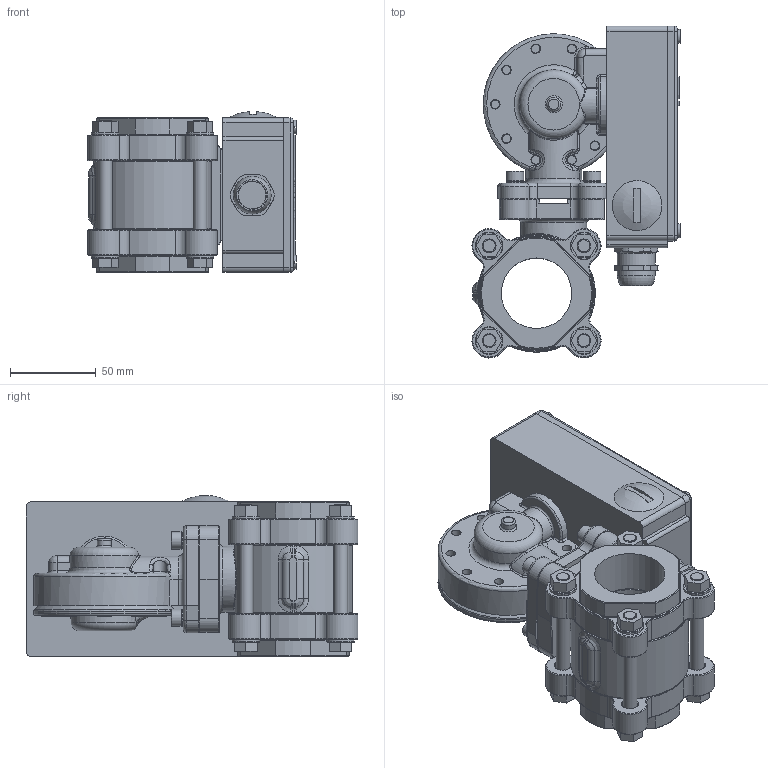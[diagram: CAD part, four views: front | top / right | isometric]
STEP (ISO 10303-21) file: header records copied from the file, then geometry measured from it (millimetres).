
FILE_DESCRIPTION(/* description */ ('Alibre Inc.'),/* implementation_level */ '2;1');
FILE_NAME(/* name */ 'export0',/* time_stamp */ '2012-10-15T10:52:17+02:00',/* author */ (''),/* organization */ (''),/* preprocessor_version */ 'ST-DEVELOPER v14',/* originating_system */ 'Alibre',/* authorisation */ '');
FILE_SCHEMA (('CONFIG_CONTROL_DESIGN'));
Length unit declared in the file: centimetre
Products named in the file (15): ID_1; ID_2; ID_3; ID_4; ID_5; ID_6; ID_7; ID_8; ID_9; ID_10; ID_11; ID_12
Bounding box: 121.07 x 193.07 x 93.66 mm (x, y, z)
Volume: 544492 mm3; surface area: 220794.9 mm2
Topology: 42 solids, 42 shells, 1300 faces, 3049 edges, 1914 vertices
Faces by surface type: plane 576, cylinder 310, bspline 188, torus 152, cone 69, sphere 5
Full cylindrical faces by diameter (mm): 5 x23, 5.5 x18, 6 x8, 6.038 x2, 6.5 x8, 7.5 x1, 8 x22, 8.3 x9, 8.4 x8, 9 x8, 9.6 x4, 10 x4, 11.85 x1, 16 x9, 17.966 x1, 22 x2, 22.5 x4, 31 x1, 32.2 x1, 38.5 x1, 41 x2, 44.8 x1, 51.5 x2, 56 x2
Entity records: 42174 total; most frequent: CARTESIAN_POINT 18495, ORIENTED_EDGE 4516, DIRECTION 3757, EDGE_CURVE 2258, AXIS2_PLACEMENT_3D 1618, VERTEX_POINT 1489, EDGE_LOOP 1285, FACE_BOUND 1285
